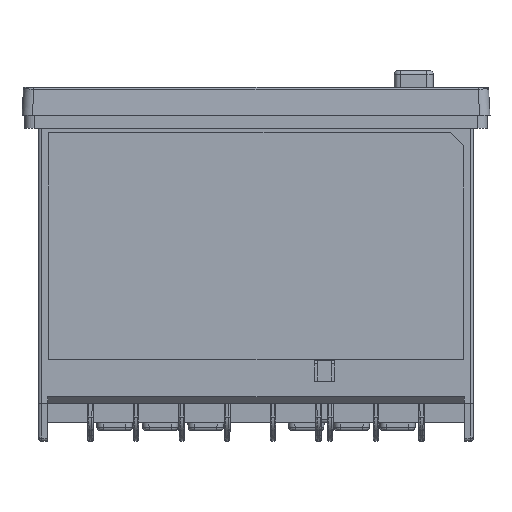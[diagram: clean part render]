
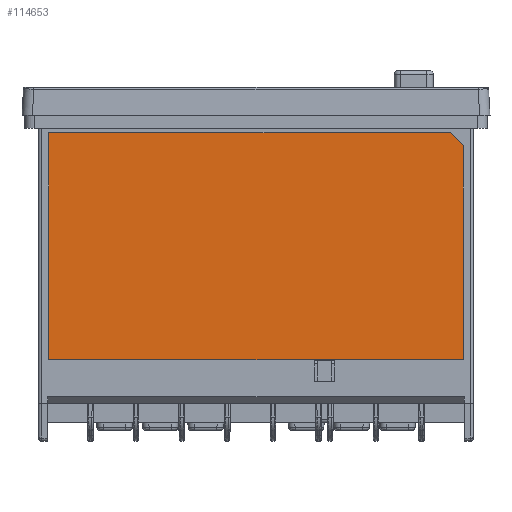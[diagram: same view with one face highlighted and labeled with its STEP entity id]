
A CAD part, left-side view. The second image highlights one B-rep face of the part: STEP entity #114653.
In plain terms, the highlighted planar face has unit normal (-1, 0, 0).
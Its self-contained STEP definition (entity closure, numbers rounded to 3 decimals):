
#65691=DIRECTION('',(0.,0.707,0.707));
#65692=VECTOR('',#65691,2.828);
#65693=CARTESIAN_POINT('',(-33.1,-31.8,-4.7));
#65694=LINE('',#65693,#65692);
#65698=DIRECTION('',(0.,0.,1.));
#65699=VECTOR('',#65698,32.8);
#65700=CARTESIAN_POINT('',(-33.1,-31.8,-37.5));
#65701=LINE('',#65700,#65699);
#65705=DIRECTION('',(0.,-1.,0.));
#65706=VECTOR('',#65705,63.6);
#65707=CARTESIAN_POINT('',(-33.1,31.8,-37.5));
#65708=LINE('',#65707,#65706);
#65712=DIRECTION('',(0.,0.,-1.));
#65713=VECTOR('',#65712,34.8);
#65714=CARTESIAN_POINT('',(-33.1,31.8,-2.7));
#65715=LINE('',#65714,#65713);
#65719=DIRECTION('',(0.,1.,0.));
#65720=VECTOR('',#65719,61.6);
#65721=CARTESIAN_POINT('',(-33.1,-29.8,-2.7));
#65722=LINE('',#65721,#65720);
#80761=CARTESIAN_POINT('',(-33.1,31.8,-37.5));
#80762=CARTESIAN_POINT('',(-33.1,-31.8,-37.5));
#80763=VERTEX_POINT('',#80761);
#80764=VERTEX_POINT('',#80762);
#80765=CARTESIAN_POINT('',(-33.1,31.8,-2.7));
#80766=VERTEX_POINT('',#80765);
#80781=CARTESIAN_POINT('',(-33.1,-31.8,-4.7));
#80782=CARTESIAN_POINT('',(-33.1,-29.8,-2.7));
#80783=VERTEX_POINT('',#80781);
#80784=VERTEX_POINT('',#80782);
#114638=CARTESIAN_POINT('',(-33.1,0.,-50.));
#114639=DIRECTION('',(-1.,0.,0.));
#114640=DIRECTION('',(0.,0.,1.));
#114641=AXIS2_PLACEMENT_3D('',#114638,#114639,#114640);
#114642=PLANE('',#114641);
#114643=ORIENTED_EDGE('',*,*,#114629,.F.);
#114644=ORIENTED_EDGE('',*,*,#114619,.F.);
#114646=ORIENTED_EDGE('',*,*,#114645,.F.);
#114648=ORIENTED_EDGE('',*,*,#114647,.F.);
#114650=ORIENTED_EDGE('',*,*,#114649,.F.);
#114651=EDGE_LOOP('',(#114643,#114644,#114646,#114648,#114650));
#114652=FACE_OUTER_BOUND('',#114651,.F.);
#114653=ADVANCED_FACE('',(#114652),#114642,.T.);
#114619=EDGE_CURVE('',#80764,#80783,#65701,.T.);
#114629=EDGE_CURVE('',#80783,#80784,#65694,.T.);
#114645=EDGE_CURVE('',#80763,#80764,#65708,.T.);
#114647=EDGE_CURVE('',#80766,#80763,#65715,.T.);
#114649=EDGE_CURVE('',#80784,#80766,#65722,.T.);
